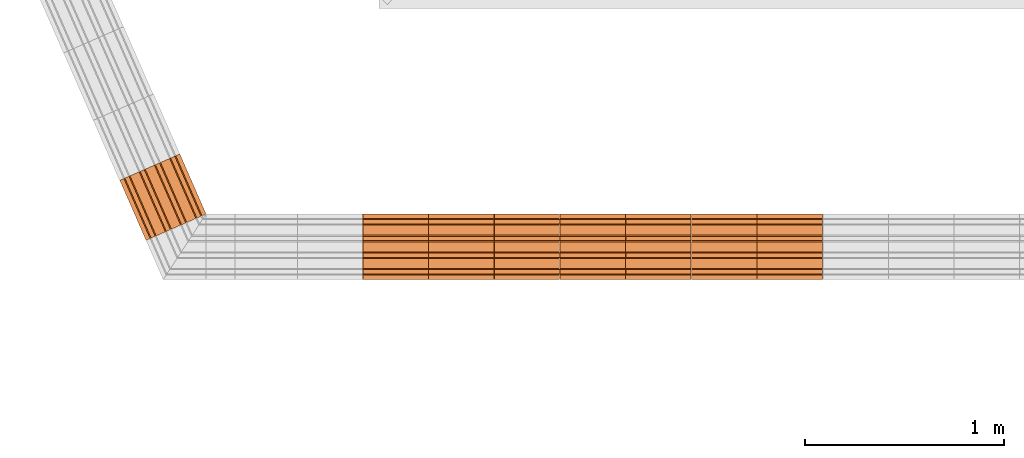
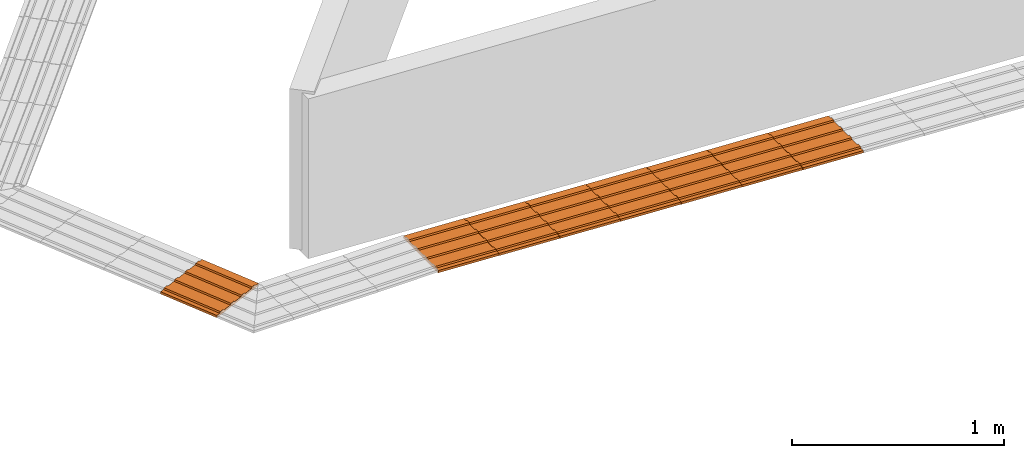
# One storey, part 158 of 237: 8 proxies.
"""IFC2X3 building model written with IfcOpenShell, lengths in millimetres."""

from ifc_helpers import new_model, entity, si_unit, converted_unit, derived_unit, money_unit, direction, frame, origin_with_axes, place, context, subcontext, project, spatial, open_shell, surface_model, source, transform, mapped, type_object, element, save


model = new_model("IFC2X3")

# Units and contexts
model_context = context("Model", 3, precision=0.01, world=origin_with_axes(), true_north=direction((0.0, 1.0)))
body_context = subcontext(model_context, "Body", "Model", "MODEL_VIEW")
ifc_project = project(units=[si_unit("LENGTHUNIT", "METRE", prefix="MILLI"), si_unit("AREAUNIT", "SQUARE_METRE"), si_unit("VOLUMEUNIT", "CUBIC_METRE"), converted_unit("PLANEANGLEUNIT", "DEGREE", entity("IfcPlaneAngleMeasure", 0.0174532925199), si_unit("PLANEANGLEUNIT", "RADIAN"), dimensions=[0, 0, 0, 0, 0, 0, 0]), money_unit("USD"), converted_unit("TIMEUNIT", "Year", entity("IfcTimeMeasure", 31556926.0), si_unit("TIMEUNIT", "SECOND"), dimensions=[0, 0, 1, 0, 0, 0, 0]), si_unit("MASSUNIT", "GRAM", prefix="KILO"), si_unit("THERMODYNAMICTEMPERATUREUNIT", "DEGREE_CELSIUS"), si_unit("LUMINOUSINTENSITYUNIT", "LUMEN"), si_unit("ENERGYUNIT", "JOULE", prefix="MEGA"), derived_unit("THERMALCONDUCTANCEUNIT", [(si_unit("POWERUNIT", "WATT"), 1), (si_unit("LENGTHUNIT", "METRE"), -1), (si_unit("THERMODYNAMICTEMPERATUREUNIT", "KELVIN"), -1)]), derived_unit("SPECIFICHEATCAPACITYUNIT", [(si_unit("ENERGYUNIT", "JOULE"), 1), (si_unit("MASSUNIT", "GRAM", prefix="KILO"), -1), (si_unit("THERMODYNAMICTEMPERATUREUNIT", "KELVIN"), -1)]), derived_unit("MASSDENSITYUNIT", [(si_unit("MASSUNIT", "GRAM", prefix="KILO"), 1), (si_unit("VOLUMEUNIT", "CUBIC_METRE"), -1)])], contexts=[model_context])

# Site, building, storey
site_placement = place(None, origin_with_axes())
site = spatial("IfcSite", under=ifc_project, at=site_placement, Name="Local", CompositionType="ELEMENT")
building_placement = place(site_placement, origin_with_axes())
building = spatial("IfcBuilding", under=site, at=building_placement, Name="Construção", CompositionType="ELEMENT")
storey_placement = place(building_placement, origin_with_axes())
storey = spatial("IfcBuildingStorey", under=building, at=storey_placement, Name="Pavimento Térreo", CompositionType="ELEMENT", Elevation=0.0)

# Proxies
building_element_proxy_type = type_object("IfcBuildingElementProxyType", Name="Piso Direcional 27", PredefinedType="NOTDEFINED")
shared_shape_1 = source(origin_with_axes(), body_context, "Body", "SurfaceModel", [
    surface_model("IfcShellBasedSurfaceModel", [(-0.196792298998, -47.258225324, 4.02371099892), (329.409233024, -47.258225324, 20.1441350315), (329.083567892, -41.665004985, 26.8028426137), (-0.522457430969, -41.665004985, 10.6824185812)], [open_shell([[[0, 1, 2, 3]]])]),
    surface_model("IfcShellBasedSurfaceModel", [(330.060563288, -153.529411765, 6.82671986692), (330.060563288, 176.470588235, 6.82671986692), (329.409233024, 176.470588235, 20.1441350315), (329.409233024, 154.097706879, 20.1441350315), (329.083567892, 148.50448654, 26.8028426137), (329.083567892, 126.131605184, 26.8028426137), (329.409233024, 120.538384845, 20.1441350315), (329.409233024, 70.1994017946, 20.1441350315), (329.083567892, 64.6061814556, 26.8028426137), (329.083567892, 42.2333000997, 26.8028426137), (329.409233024, 36.6400797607, 20.1441350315), (329.409233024, -13.6989032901, 20.1441350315), (329.083567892, -19.2921236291, 26.8028426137), (329.083567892, -41.665004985, 26.8028426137), (329.409233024, -47.258225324, 20.1441350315), (329.409233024, -97.5972083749, 20.1441350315), (329.083567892, -103.190428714, 26.8028426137), (329.083567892, -125.56331007, 26.8028426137), (329.409233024, -131.156530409, 20.1441350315), (329.409233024, -153.529411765, 20.1441350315)], [open_shell([[[0, 1, 2, 3, 4, 5, 6, 7, 8, 9, 10, 11, 12, 13, 14, 15, 16, 17, 18, 19]]])]),
    surface_model("IfcShellBasedSurfaceModel", [(-0.522457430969, -19.2921236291, 10.6824185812), (329.083567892, -19.2921236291, 26.8028426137), (329.409233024, -13.6989032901, 20.1441350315), (-0.196792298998, -13.6989032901, 4.02371099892)], [open_shell([[[0, 1, 2, 3]]])]),
    surface_model("IfcShellBasedSurfaceModel", [(-0.522457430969, -103.190428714, 10.6824185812), (329.083567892, -103.190428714, 26.8028426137), (329.409233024, -97.5972083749, 20.1441350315), (-0.196792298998, -97.5972083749, 4.02371099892)], [open_shell([[[0, 1, 2, 3]]])]),
    surface_model("IfcShellBasedSurfaceModel", [(-0.522457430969, 64.6061814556, 10.6824185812), (329.083567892, 64.6061814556, 26.8028426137), (329.409233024, 70.1994017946, 20.1441350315), (-0.196792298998, 70.1994017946, 4.02371099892)], [open_shell([[[0, 1, 2, 3]]])]),
    surface_model("IfcShellBasedSurfaceModel", [(-0.196792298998, 36.6400797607, 4.02371099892), (329.409233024, 36.6400797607, 20.1441350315), (329.083567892, 42.2333000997, 26.8028426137), (-0.522457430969, 42.2333000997, 10.6824185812)], [open_shell([[[0, 1, 2, 3]]])]),
    surface_model("IfcShellBasedSurfaceModel", [(-0.196792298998, -131.156530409, 4.02371099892), (329.409233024, -131.156530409, 20.1441350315), (329.083567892, -125.56331007, 26.8028426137), (-0.522457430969, -125.56331007, 10.6824185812)], [open_shell([[[0, 1, 2, 3]]])]),
    surface_model("IfcShellBasedSurfaceModel", [(-0.196792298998, 176.470588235, 4.02371099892), (-0.196792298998, 154.097706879, 4.02371099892), (329.409233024, 154.097706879, 20.1441350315), (329.409233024, 176.470588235, 20.1441350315)], [open_shell([[[0, 1, 2, 3]]])]),
    surface_model("IfcShellBasedSurfaceModel", [(-0.196792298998, 120.538384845, 4.02371099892), (329.409233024, 120.538384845, 20.1441350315), (329.083567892, 126.131605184, 26.8028426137), (-0.522457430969, 126.131605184, 10.6824185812)], [open_shell([[[0, 1, 2, 3]]])]),
    surface_model("IfcShellBasedSurfaceModel", [(-0.522457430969, 148.50448654, 10.6824185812), (329.083567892, 148.50448654, 26.8028426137), (329.409233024, 154.097706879, 20.1441350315), (-0.196792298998, 154.097706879, 4.02371099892)], [open_shell([[[0, 1, 2, 3]]])]),
    surface_model("IfcShellBasedSurfaceModel", [(-0.196792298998, 36.6400797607, 4.02371099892), (-0.196792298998, -13.6989032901, 4.02371099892), (329.409233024, -13.6989032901, 20.1441350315), (329.409233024, 36.6400797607, 20.1441350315)], [open_shell([[[0, 1, 2, 3]]])]),
    surface_model("IfcShellBasedSurfaceModel", [(-0.196792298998, 120.538384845, 4.02371099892), (-0.196792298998, 70.1994017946, 4.02371099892), (329.409233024, 70.1994017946, 20.1441350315), (329.409233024, 120.538384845, 20.1441350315)], [open_shell([[[0, 1, 2, 3]]])]),
    surface_model("IfcShellBasedSurfaceModel", [(-0.522457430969, 148.50448654, 10.6824185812), (-0.522457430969, 126.131605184, 10.6824185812), (329.083567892, 126.131605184, 26.8028426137), (329.083567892, 148.50448654, 26.8028426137)], [open_shell([[[0, 1, 2, 3]]])]),
    surface_model("IfcShellBasedSurfaceModel", [(-0.196792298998, 120.538384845, 4.02371099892), (-0.522457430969, 126.131605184, 10.6824185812), (-0.522457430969, 148.50448654, 10.6824185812), (-0.196792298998, 154.097706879, 4.02371099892), (-0.196792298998, 176.470588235, 4.02371099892), (0.454537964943, 176.470588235, -9.29370416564), (0.454537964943, -153.529411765, -9.29370416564), (-0.196792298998, -153.529411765, 4.02371099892), (-0.196792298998, -131.156530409, 4.02371099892), (-0.522457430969, -125.56331007, 10.6824185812), (-0.522457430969, -103.190428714, 10.6824185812), (-0.196792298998, -97.5972083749, 4.02371099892), (-0.196792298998, -47.258225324, 4.02371099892), (-0.522457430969, -41.665004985, 10.6824185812), (-0.522457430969, -19.2921236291, 10.6824185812), (-0.196792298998, -13.6989032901, 4.02371099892), (-0.196792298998, 36.6400797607, 4.02371099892), (-0.522457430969, 42.2333000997, 10.6824185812), (-0.522457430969, 64.6061814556, 10.6824185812), (-0.196792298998, 70.1994017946, 4.02371099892)], [open_shell([[[0, 1, 2, 3, 4, 5, 6, 7, 8, 9, 10, 11, 12, 13, 14, 15, 16, 17, 18, 19]]])]),
    surface_model("IfcShellBasedSurfaceModel", [(329.083567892, -41.665004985, 26.8028426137), (329.083567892, -19.2921236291, 26.8028426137), (-0.522457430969, -19.2921236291, 10.6824185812), (-0.522457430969, -41.665004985, 10.6824185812)], [open_shell([[[0, 1, 2, 3]]])]),
    surface_model("IfcShellBasedSurfaceModel", [(-0.196792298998, -47.258225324, 4.02371099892), (-0.196792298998, -97.5972083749, 4.02371099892), (329.409233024, -97.5972083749, 20.1441350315), (329.409233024, -47.258225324, 20.1441350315)], [open_shell([[[0, 1, 2, 3]]])]),
    surface_model("IfcShellBasedSurfaceModel", [(329.083567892, 42.2333000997, 26.8028426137), (329.083567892, 64.6061814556, 26.8028426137), (-0.522457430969, 64.6061814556, 10.6824185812), (-0.522457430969, 42.2333000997, 10.6824185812)], [open_shell([[[0, 1, 2, 3]]])]),
    surface_model("IfcShellBasedSurfaceModel", [(329.083567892, -125.56331007, 26.8028426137), (329.083567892, -103.190428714, 26.8028426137), (-0.522457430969, -103.190428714, 10.6824185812), (-0.522457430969, -125.56331007, 10.6824185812)], [open_shell([[[0, 1, 2, 3]]])]),
    surface_model("IfcShellBasedSurfaceModel", [(330.060563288, 176.470588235, 6.82671986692), (0.454537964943, 176.470588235, -9.29370416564), (-0.196792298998, 176.470588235, 4.02371099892), (329.409233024, 176.470588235, 20.1441350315)], [open_shell([[[0, 1, 2, 3]]])]),
    surface_model("IfcShellBasedSurfaceModel", [(330.060563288, -153.529411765, 6.82671986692), (0.454537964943, -153.529411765, -9.29370416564), (0.454537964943, 176.470588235, -9.29370416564), (330.060563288, 176.470588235, 6.82671986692)], [open_shell([[[0, 1, 2, 3]]])]),
    surface_model("IfcShellBasedSurfaceModel", [(329.409233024, -153.529411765, 20.1441350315), (329.409233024, -131.156530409, 20.1441350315), (-0.196792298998, -131.156530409, 4.02371099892), (-0.196792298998, -153.529411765, 4.02371099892)], [open_shell([[[0, 1, 2, 3]]])]),
    surface_model("IfcShellBasedSurfaceModel", [(0.454537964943, -153.529411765, -9.29370416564), (330.060563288, -153.529411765, 6.82671986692), (329.409233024, -153.529411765, 20.1441350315), (-0.196792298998, -153.529411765, 4.02371099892)], [open_shell([[[0, 1, 2, 3]]])]),
])
for number, where, z_axis, x_axis, name in (
    (1, (27765.7620723, 10834.0941893, -2404.74772228), (0.0, 0.0, 1.0), (-1.0, 0.0, 0.0), "Objeto-0055"),
    (2, (29089.4626589, 10834.0941893, -2473.68348148), (0.0, 0.0, 1.0), (-1.0, 0.0, 0.0), "Objeto-0055"),
    (3, (28758.5375122, 10834.0941893, -2456.44954168), (0.0, 0.0, 1.0), (-1.0, 0.0, 0.0), "Objeto-0055"),
    (4, (28427.6123656, 10834.0941893, -2439.21560188), (0.0, 0.0, 1.0), (-1.0, 0.0, 0.0), "Objeto-0055"),
    (5, (29420.3878055, 10834.0941893, -2490.91742128), (0.0, 0.0, 1.0), (-1.0, 0.0, 0.0), "Objeto-0055"),
    (6, (29751.3129522, 10834.0941893, -2508.15136108), (0.0, 0.0, 1.0), (-1.0, 0.0, 0.0), "Objeto-0055"),
    (7, (28096.6872189, 10834.0941893, -2421.98166208), (0.0, 0.0, 1.0), (-1.0, 0.0, 0.0), "Objeto-0055"),
):
    element("IfcBuildingElementProxy", number, at=place(storey_placement, frame(where, z_axis=z_axis, x_axis=x_axis)), inside=storey, type_object=building_element_proxy_type, Name=name, context=body_context, shape_type="MappedRepresentation", body=[
        mapped(shared_shape_1, transform((0.0, 0.0, 0.0))),
    ])
shared_shape_2 = source(origin_with_axes(), body_context, "Body", "SurfaceModel", [
    surface_model("IfcShellBasedSurfaceModel", [(0.0, -47.258225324, 4.02852049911), (330.0, -47.258225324, 4.02852049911), (330.0, -41.665004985, 10.6951871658), (0.0, -41.665004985, 10.6951871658)], [open_shell([[[0, 1, 2, 3]]])]),
    surface_model("IfcShellBasedSurfaceModel", [(330.0, -153.529411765, -9.30481283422), (330.0, 176.470588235, -9.30481283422), (330.0, 176.470588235, 4.02852049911), (330.0, 154.097706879, 4.02852049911), (330.0, 148.50448654, 10.6951871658), (330.0, 126.131605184, 10.6951871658), (330.0, 120.538384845, 4.02852049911), (330.0, 70.1994017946, 4.02852049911), (330.0, 64.6061814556, 10.6951871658), (330.0, 42.2333000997, 10.6951871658), (330.0, 36.6400797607, 4.02852049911), (330.0, -13.6989032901, 4.02852049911), (330.0, -19.2921236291, 10.6951871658), (330.0, -41.665004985, 10.6951871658), (330.0, -47.258225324, 4.02852049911), (330.0, -97.5972083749, 4.02852049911), (330.0, -103.190428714, 10.6951871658), (330.0, -125.56331007, 10.6951871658), (330.0, -131.156530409, 4.02852049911), (330.0, -153.529411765, 4.02852049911)], [open_shell([[[0, 1, 2, 3, 4, 5, 6, 7, 8, 9, 10, 11, 12, 13, 14, 15, 16, 17, 18, 19]]])]),
    surface_model("IfcShellBasedSurfaceModel", [(0.0, -19.2921236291, 10.6951871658), (330.0, -19.2921236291, 10.6951871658), (330.0, -13.6989032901, 4.02852049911), (0.0, -13.6989032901, 4.02852049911)], [open_shell([[[0, 1, 2, 3]]])]),
    surface_model("IfcShellBasedSurfaceModel", [(0.0, -103.190428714, 10.6951871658), (330.0, -103.190428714, 10.6951871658), (330.0, -97.5972083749, 4.02852049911), (0.0, -97.5972083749, 4.02852049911)], [open_shell([[[0, 1, 2, 3]]])]),
    surface_model("IfcShellBasedSurfaceModel", [(0.0, 64.6061814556, 10.6951871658), (330.0, 64.6061814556, 10.6951871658), (330.0, 70.1994017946, 4.02852049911), (0.0, 70.1994017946, 4.02852049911)], [open_shell([[[0, 1, 2, 3]]])]),
    surface_model("IfcShellBasedSurfaceModel", [(0.0, 36.6400797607, 4.02852049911), (330.0, 36.6400797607, 4.02852049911), (330.0, 42.2333000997, 10.6951871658), (0.0, 42.2333000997, 10.6951871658)], [open_shell([[[0, 1, 2, 3]]])]),
    surface_model("IfcShellBasedSurfaceModel", [(0.0, -131.156530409, 4.02852049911), (330.0, -131.156530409, 4.02852049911), (330.0, -125.56331007, 10.6951871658), (0.0, -125.56331007, 10.6951871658)], [open_shell([[[0, 1, 2, 3]]])]),
    surface_model("IfcShellBasedSurfaceModel", [(0.0, 176.470588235, 4.02852049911), (0.0, 154.097706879, 4.02852049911), (330.0, 154.097706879, 4.02852049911), (330.0, 176.470588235, 4.02852049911)], [open_shell([[[0, 1, 2, 3]]])]),
    surface_model("IfcShellBasedSurfaceModel", [(0.0, 120.538384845, 4.02852049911), (330.0, 120.538384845, 4.02852049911), (330.0, 126.131605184, 10.6951871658), (0.0, 126.131605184, 10.6951871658)], [open_shell([[[0, 1, 2, 3]]])]),
    surface_model("IfcShellBasedSurfaceModel", [(0.0, 148.50448654, 10.6951871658), (330.0, 148.50448654, 10.6951871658), (330.0, 154.097706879, 4.02852049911), (0.0, 154.097706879, 4.02852049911)], [open_shell([[[0, 1, 2, 3]]])]),
    surface_model("IfcShellBasedSurfaceModel", [(0.0, 36.6400797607, 4.02852049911), (0.0, -13.6989032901, 4.02852049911), (330.0, -13.6989032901, 4.02852049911), (330.0, 36.6400797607, 4.02852049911)], [open_shell([[[0, 1, 2, 3]]])]),
    surface_model("IfcShellBasedSurfaceModel", [(0.0, 120.538384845, 4.02852049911), (0.0, 70.1994017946, 4.02852049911), (330.0, 70.1994017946, 4.02852049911), (330.0, 120.538384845, 4.02852049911)], [open_shell([[[0, 1, 2, 3]]])]),
    surface_model("IfcShellBasedSurfaceModel", [(0.0, 148.50448654, 10.6951871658), (0.0, 126.131605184, 10.6951871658), (330.0, 126.131605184, 10.6951871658), (330.0, 148.50448654, 10.6951871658)], [open_shell([[[0, 1, 2, 3]]])]),
    surface_model("IfcShellBasedSurfaceModel", [(0.0, 120.538384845, 4.02852049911), (0.0, 126.131605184, 10.6951871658), (0.0, 148.50448654, 10.6951871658), (0.0, 154.097706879, 4.02852049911), (0.0, 176.470588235, 4.02852049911), (0.0, 176.470588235, -9.30481283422), (0.0, -153.529411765, -9.30481283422), (0.0, -153.529411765, 4.02852049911), (0.0, -131.156530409, 4.02852049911), (0.0, -125.56331007, 10.6951871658), (0.0, -103.190428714, 10.6951871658), (0.0, -97.5972083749, 4.02852049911), (0.0, -47.258225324, 4.02852049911), (0.0, -41.665004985, 10.6951871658), (0.0, -19.2921236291, 10.6951871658), (0.0, -13.6989032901, 4.02852049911), (0.0, 36.6400797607, 4.02852049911), (0.0, 42.2333000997, 10.6951871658), (0.0, 64.6061814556, 10.6951871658), (0.0, 70.1994017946, 4.02852049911)], [open_shell([[[0, 1, 2, 3, 4, 5, 6, 7, 8, 9, 10, 11, 12, 13, 14, 15, 16, 17, 18, 19]]])]),
    surface_model("IfcShellBasedSurfaceModel", [(330.0, -41.665004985, 10.6951871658), (330.0, -19.2921236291, 10.6951871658), (0.0, -19.2921236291, 10.6951871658), (0.0, -41.665004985, 10.6951871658)], [open_shell([[[0, 1, 2, 3]]])]),
    surface_model("IfcShellBasedSurfaceModel", [(0.0, -47.258225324, 4.02852049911), (0.0, -97.5972083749, 4.02852049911), (330.0, -97.5972083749, 4.02852049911), (330.0, -47.258225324, 4.02852049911)], [open_shell([[[0, 1, 2, 3]]])]),
    surface_model("IfcShellBasedSurfaceModel", [(330.0, 42.2333000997, 10.6951871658), (330.0, 64.6061814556, 10.6951871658), (0.0, 64.6061814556, 10.6951871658), (0.0, 42.2333000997, 10.6951871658)], [open_shell([[[0, 1, 2, 3]]])]),
    surface_model("IfcShellBasedSurfaceModel", [(330.0, -125.56331007, 10.6951871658), (330.0, -103.190428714, 10.6951871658), (0.0, -103.190428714, 10.6951871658), (0.0, -125.56331007, 10.6951871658)], [open_shell([[[0, 1, 2, 3]]])]),
    surface_model("IfcShellBasedSurfaceModel", [(330.0, 176.470588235, -9.30481283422), (0.0, 176.470588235, -9.30481283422), (0.0, 176.470588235, 4.02852049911), (330.0, 176.470588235, 4.02852049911)], [open_shell([[[0, 1, 2, 3]]])]),
    surface_model("IfcShellBasedSurfaceModel", [(330.0, -153.529411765, -9.30481283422), (0.0, -153.529411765, -9.30481283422), (0.0, 176.470588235, -9.30481283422), (330.0, 176.470588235, -9.30481283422)], [open_shell([[[0, 1, 2, 3]]])]),
    surface_model("IfcShellBasedSurfaceModel", [(330.0, -153.529411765, 4.02852049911), (330.0, -131.156530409, 4.02852049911), (0.0, -131.156530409, 4.02852049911), (0.0, -153.529411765, 4.02852049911)], [open_shell([[[0, 1, 2, 3]]])]),
    surface_model("IfcShellBasedSurfaceModel", [(0.0, -153.529411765, -9.30481283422), (330.0, -153.529411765, -9.30481283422), (330.0, -153.529411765, 4.02852049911), (0.0, -153.529411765, 4.02852049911)], [open_shell([[[0, 1, 2, 3]]])]),
])
proxy_placement = place(storey_placement, frame((26506.3885285, 10926.1315294, -2385.08199458), z_axis=(0.0, 0.0, 1.0), x_axis=(-0.40058928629, 0.916257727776, 0.0)))
element("IfcBuildingElementProxy", 8, at=proxy_placement, inside=storey, type_object=building_element_proxy_type, Name="Objeto-0055", context=body_context, shape_type="MappedRepresentation", body=[
    mapped(shared_shape_2, transform((0.0, 0.0, 0.0))),
])

save(model, "model.ifc")
